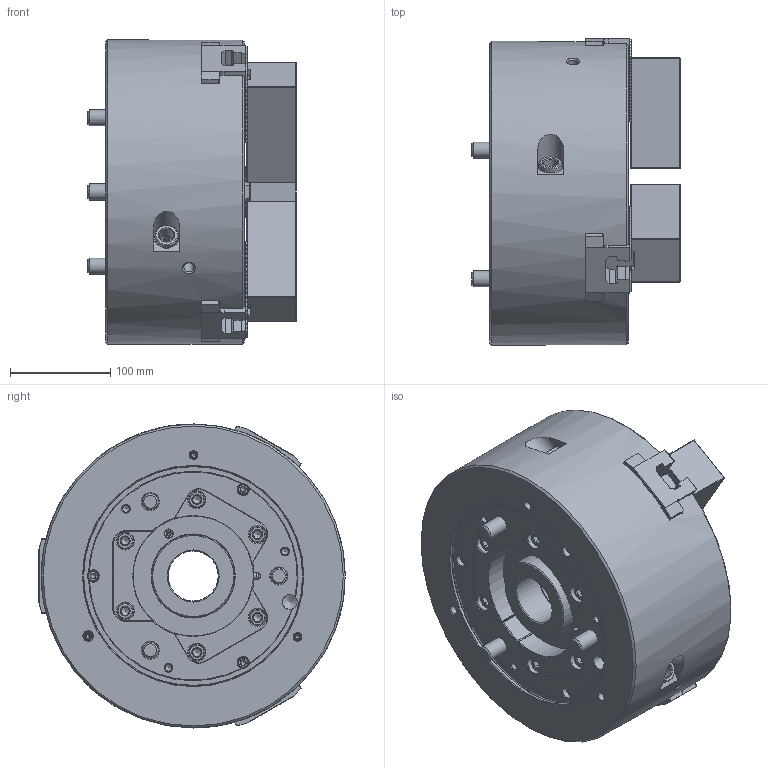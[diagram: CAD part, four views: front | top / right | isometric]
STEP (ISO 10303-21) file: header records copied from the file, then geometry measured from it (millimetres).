
FILE_DESCRIPTION (( 'STEP AP214' ), '1' );
FILE_NAME ('DT1_BL-212_OUTSIDE_VIEW_HUL.STEP', '2024-05-08T02:27:58', ( '' ), ( '' ), 'SwSTEP 2.0', 'SolidWorks 2022', '' );
FILE_SCHEMA (( 'AUTOMOTIVE_DESIGN' ));
Length unit declared in the file: millimetre
Products named in the file (9): DT1_B-212_M16x40^DT1_BL-212_ﾃﾞﾌｫﾙﾄ; DT1_B-212_M16x130^DT1_BL-212_ﾃﾞﾌｫﾙﾄ; DT1_BL-212_OUTSIDE_VIEW_HUL; DT1_B-212_COVER^DT1_BL-212_ﾃﾞﾌｫﾙﾄ; BASE^DT1_BL-212_ﾃﾞﾌｫﾙﾄ; DT1_B-212_TNUT^DT1_BL-212_ﾃﾞﾌｫﾙﾄ; DT1_B-212_M5x10^DT1_BL-212_ﾃﾞﾌｫﾙﾄ; DT1_B-212_DRAWNUT^DT1_BL-212_ﾃﾞﾌｫﾙﾄ; DT1_B-212_SOFTJAW^DT1_BL-212_ﾃﾞﾌｫﾙﾄ
Assembly tree (21 placements, depth 2):
  DT1_BL-212_OUTSIDE_VIEW_HUL
    DT1_B-212_DRAWNUT^DT1_BL-212_ﾃﾞﾌｫﾙﾄ
    DT1_B-212_COVER^DT1_BL-212_ﾃﾞﾌｫﾙﾄ
    DT1_B-212_TNUT^DT1_BL-212_ﾃﾞﾌｫﾙﾄ  x3
    DT1_B-212_SOFTJAW^DT1_BL-212_ﾃﾞﾌｫﾙﾄ  x3
    BASE^DT1_BL-212_ﾃﾞﾌｫﾙﾄ
    DT1_B-212_M16x40^DT1_BL-212_ﾃﾞﾌｫﾙﾄ  x6
    DT1_B-212_M16x130^DT1_BL-212_ﾃﾞﾌｫﾙﾄ  x3
    DT1_B-212_M5x10^DT1_BL-212_ﾃﾞﾌｫﾙﾄ  x3
Bounding box: 208 x 306.31 x 304 mm (x, y, z)
Volume: 9933112.4 mm3; surface area: 732822.3 mm2
Topology: 21 solids, 33 shells, 4101 faces, 11496 edges, 7553 vertices
Faces by surface type: plane 3374, cylinder 291, cone 283, bspline 121, torus 29, sphere 3
Full cylindrical faces by diameter (mm): 2 x3, 4.2 x3, 5 x5, 5.5 x3, 6 x1, 6.8 x9, 8 x1, 8.6 x3, 9.5 x3, 10 x9, 10.2 x2, 10.22 x3, 11 x9, 14 x6, 15 x4, 16 x9, 16.27 x6, 17 x15, 23.5 x3, 24.1 x3, 24.33 x9, 25 x9, 50 x1, 63 x1, 67 x3, 76 x1, 83 x2, 83.25 x1, 90 x2, 220 x1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
Entity records: 98219 total; most frequent: CARTESIAN_POINT 25438, ORIENTED_EDGE 15598, DIRECTION 13425, EDGE_CURVE 7799, VECTOR 6301, LINE 6301, VERTEX_POINT 5246, AXIS2_PLACEMENT_3D 3562
